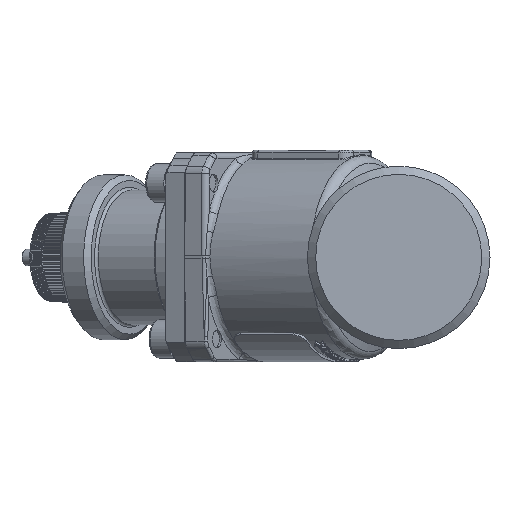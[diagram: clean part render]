
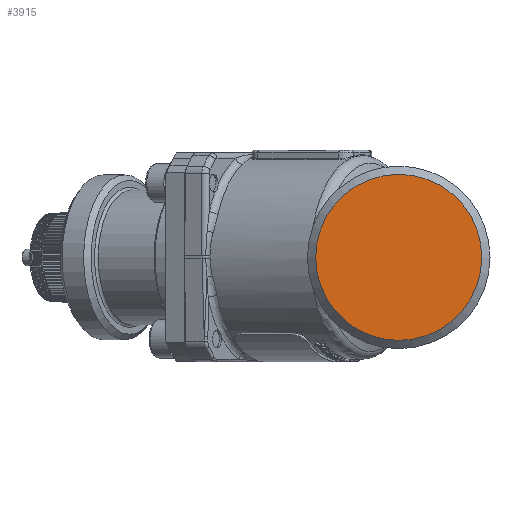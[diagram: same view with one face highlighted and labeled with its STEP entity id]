
A CAD part, left-side view. The second image highlights one B-rep face of the part: STEP entity #3915.
In plain terms, the highlighted planar face has unit normal (-1, 0, 0).
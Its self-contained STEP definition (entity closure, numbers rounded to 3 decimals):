
#3899=CARTESIAN_POINT('',(-25.5,40.24,-19.082));
#3900=DIRECTION('',(1.0,0.0,0.0));
#3901=DIRECTION('',(0.0,0.0,-1.0));
#3902=AXIS2_PLACEMENT_3D('',#3899,#3900,#3901);
#3903=PLANE('',#3902);
#3904=CARTESIAN_POINT('',(-25.5,15.1,0.));
#3905=VERTEX_POINT('',#3904);
#3906=CARTESIAN_POINT('',(-25.5,0.0,0.0));
#3907=DIRECTION('',(1.0,0.0,0.0));
#3908=DIRECTION('',(0.0,-1.0,0.0));
#3909=AXIS2_PLACEMENT_3D('',#3906,#3907,#3908);
#3910=CIRCLE('',#3909,15.1);
#3911=EDGE_CURVE('',#3905,#3905,#3910,.T.);
#3912=ORIENTED_EDGE('',*,*,#3911,.F.);
#3913=EDGE_LOOP('',(#3912));
#3914=FACE_OUTER_BOUND('',#3913,.T.);
#3915=ADVANCED_FACE('',(#3914),#3903,.F.);
